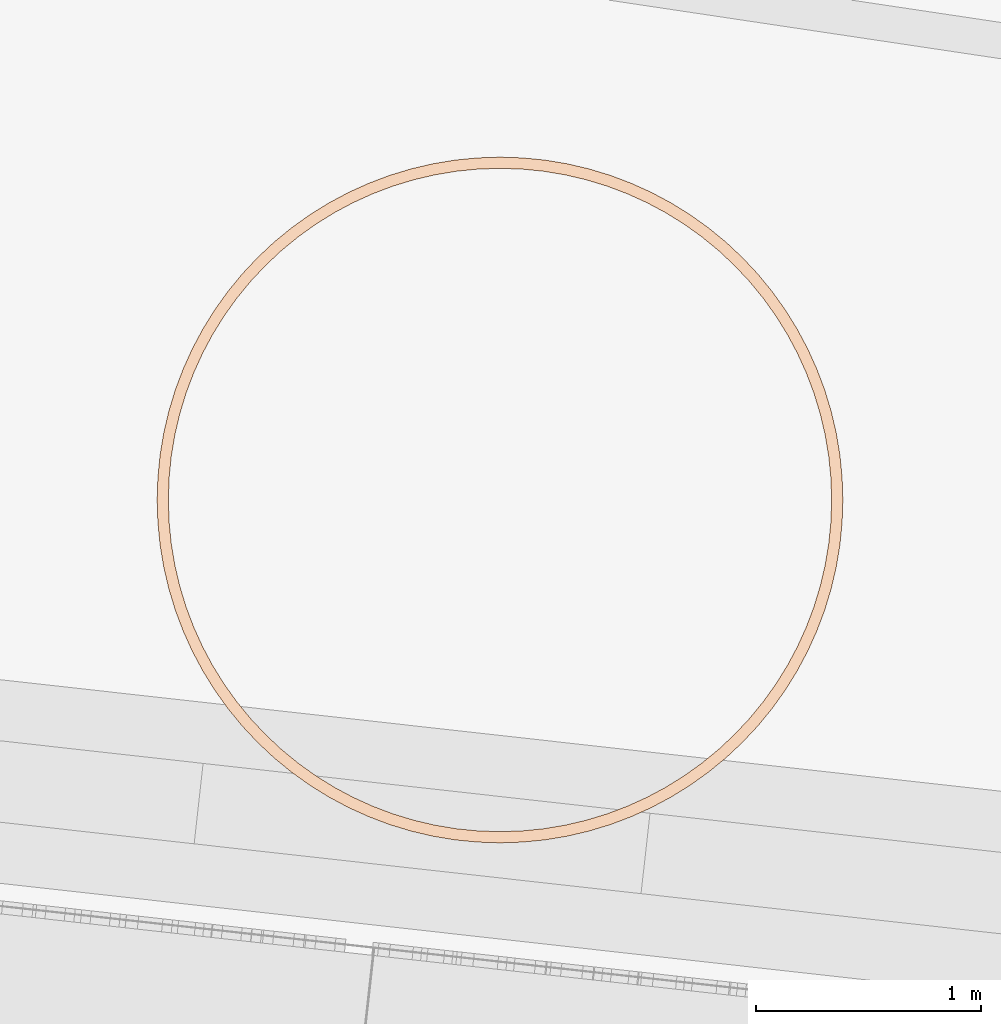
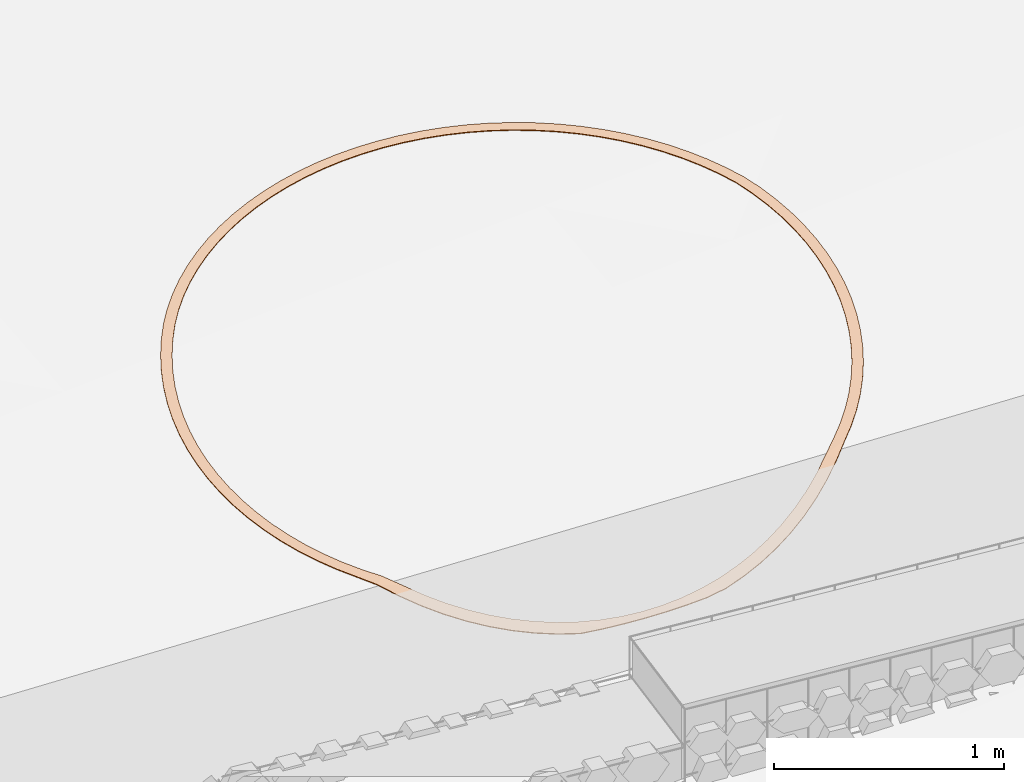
# Not in any storey, part 17 of 45: 1 geographic element.
"""IFC4 model written with IfcOpenShell, lengths in metres."""

from ifc_helpers import new_model, si_unit, direction, frame, origin_with_axes, place, context, subcontext, project, spatial, polygons, material, element, save


model = new_model("IFC4")

# Units and contexts
model_context = context("Model", 3, precision=1e-05, world=origin_with_axes(), true_north=direction((0.0, 1.0)))
body_context = subcontext(model_context, "Body", "Model", "MODEL_VIEW")
ifc_project = project(units=[si_unit("VOLUMEUNIT", "CUBIC_METRE"), si_unit("LENGTHUNIT", "METRE"), si_unit("AREAUNIT", "SQUARE_METRE")], contexts=[model_context])

# Site
site_placement = place(None, origin_with_axes())
site = spatial("IfcSite", under=ifc_project, at=site_placement, Name="Lares · Rua das Mercês · artigo 4771")

# Geographic element
ifc_material = material(Name="Marcação de plantação · linha no terreno", Category="stone")
geographic_element_placement = place(site_placement, frame((0.0, 0.0, 0.0), z_axis=(0.0, 0.0, 1.0), x_axis=(1.0, -1.03767253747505e-17, 0.0)))
element("IfcGeographicElement", 1, at=geographic_element_placement, inside=site, material=ifc_material, Name="Marcação no solo · árvore indicativa 05", ObjectType="Marcação no solo · árvore indicativa 05", PredefinedType="USERDEFINED", context=body_context, shape_type="Tessellation", body=[
    polygons([(32.5492226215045, 2.24216069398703, 13.4631935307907), (32.5492226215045, 2.24216069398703, 13.4671935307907), (32.5992226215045, 2.24216069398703, 13.4664761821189), (32.5992226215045, 2.24216069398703, 13.4704761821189), (32.5460645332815, 2.3386303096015, 13.4761023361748), (32.5460645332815, 2.3386303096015, 13.4801023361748), (32.5959574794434, 2.341900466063, 13.4798225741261), (32.5959574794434, 2.341900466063, 13.4838225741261), (32.5366037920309, 2.43468682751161, 13.4885411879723), (32.5366037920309, 2.43468682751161, 13.4925411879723), (32.5861760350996, 2.44121313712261, 13.4926830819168), (32.5861760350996, 2.44121313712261, 13.4966830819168), (32.5208809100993, 2.52991891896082, 13.5004568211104), (32.5208809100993, 2.52991891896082, 13.5044568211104), (32.5699201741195, 2.53967343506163, 13.5050026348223), (32.5699201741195, 2.53967343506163, 13.5090026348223), (32.4989632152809, 2.62391878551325, 13.5117982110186), (32.4989632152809, 2.62391878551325, 13.5157982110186), (32.5472595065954, 2.63685973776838, 13.5167284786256), (32.5472595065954, 2.63685973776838, 13.5207284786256), (32.4709445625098, 2.7162839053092, 13.5223141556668), (32.4709445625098, 2.7162839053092, 13.5263141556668), (32.5182910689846, 2.73235587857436, 13.5260280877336), (32.5182910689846, 2.73235587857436, 13.5300280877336), (32.4369449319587, 2.80661875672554, 13.5269275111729), (32.4369449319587, 2.80661875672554, 13.5309275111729), (32.4831389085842, 2.8257529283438, 13.5307978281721), (32.4831389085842, 2.8257529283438, 13.5347978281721), (32.3971099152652, 2.89453651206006, 13.5310519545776), (32.3971099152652, 2.89453651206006, 13.5350519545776), (32.4419535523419, 2.91665094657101, 13.5350620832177), (32.4419535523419, 2.91665094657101, 13.5390620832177), (32.3516100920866, 2.97966069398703, 13.5346698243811), (32.3516100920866, 2.97966069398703, 13.5386698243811), (32.3949113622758, 3.00466069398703, 13.5388025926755), (32.3949113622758, 3.00466069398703, 13.5428025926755), (32.3006402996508, 3.06162678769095, 13.5377656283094), (32.3006402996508, 3.06162678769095, 13.5417656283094), (32.3422137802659, 3.08940529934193, 13.5420033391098), (32.3422137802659, 3.08940529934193, 13.5460033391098), (32.2444187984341, 3.1400838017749, 13.5403261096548), (32.2444187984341, 3.1400838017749, 13.5443261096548), (32.2840864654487, 3.17052187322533, 13.5446506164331), (32.2840864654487, 3.17052187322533, 13.5486506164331), (32.183186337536, 3.21469577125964, 13.5423403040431), (32.183186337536, 3.21469577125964, 13.5463403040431), (32.22077832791, 3.24766306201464, 13.5467330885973), (32.22077832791, 3.24766306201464, 13.5507330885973), (32.1172051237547, 3.28514319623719, 13.5437995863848), (32.1172051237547, 3.28514319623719, 13.5477995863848), (32.152560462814, 3.32049853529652, 13.548241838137), (32.152560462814, 3.32049853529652, 13.552241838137), (32.0467576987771, 3.35112441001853, 13.5446977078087), (32.0467576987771, 3.35112441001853, 13.5486977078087), (32.0797249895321, 3.38871640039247, 13.549170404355), (32.0797249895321, 3.38871640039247, 13.553170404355), (31.9721457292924, 3.41235687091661, 13.5450308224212), (31.9721457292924, 3.41235687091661, 13.5490308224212), (32.0025838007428, 3.45202453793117, 13.5495148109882), (32.0025838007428, 3.45202453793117, 13.5535148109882), (31.8936887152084, 3.46857837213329, 13.5447975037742), (31.8936887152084, 3.46857837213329, 13.5487975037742), (31.9214672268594, 3.51015185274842, 13.5492735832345), (31.9214672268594, 3.51015185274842, 13.5532735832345), (31.8117226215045, 3.51954816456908, 13.543998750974), (31.8117226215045, 3.51954816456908, 13.547998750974), (31.8367226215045, 3.5628494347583, 13.5484477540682), (31.8367226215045, 3.5628494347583, 13.5524477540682), (31.7265984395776, 3.56504798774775, 13.5426379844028), (31.7265984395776, 3.56504798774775, 13.5466379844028), (31.7487128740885, 3.60989162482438, 13.5470408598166), (31.7487128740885, 3.60989162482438, 13.5510408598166), (31.638680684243, 3.60488300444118, 13.5407210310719), (31.638680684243, 3.60488300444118, 13.5447210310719), (31.6578148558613, 3.65107698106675, 13.5450589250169), (31.6578148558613, 3.65107698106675, 13.5490589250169), (31.5483458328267, 3.63888263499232, 13.5382560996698), (31.5483458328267, 3.63888263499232, 13.5422560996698), (31.5644178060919, 3.68622914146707, 13.5425104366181), (31.5644178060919, 3.68622914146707, 13.5465104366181), (31.4559807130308, 3.66690128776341, 13.5352537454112), (31.4559807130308, 3.66690128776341, 13.5392537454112), (31.4689216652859, 3.71519757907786, 13.5394063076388), (31.4689216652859, 3.71519757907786, 13.5434063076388), (31.3619808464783, 3.6888189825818, 13.5317268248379), (31.3619808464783, 3.6888189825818, 13.5357268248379), (31.3717353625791, 3.73785824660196, 13.5357598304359), (31.3717353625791, 3.73785824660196, 13.5397598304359), (31.2667487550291, 3.7045418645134, 13.5276904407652), (31.2667487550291, 3.7045418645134, 13.5316904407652), (31.2732750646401, 3.75411410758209, 13.5315866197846), (31.2732750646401, 3.75411410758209, 13.5355866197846), (31.170692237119, 3.71400260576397, 13.5231618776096), (31.170692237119, 3.71400260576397, 13.5271618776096), (31.1739623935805, 3.7638955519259, 13.5269045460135), (31.1739623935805, 3.7638955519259, 13.5309045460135), (31.0742226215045, 3.71716069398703, 13.5181605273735), (31.0742226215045, 3.71716069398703, 13.5221605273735), (31.0742226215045, 3.76716069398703, 13.5217336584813), (31.0742226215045, 3.76716069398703, 13.5257336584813), (30.9777530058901, 3.71400260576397, 13.5127078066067), (30.9777530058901, 3.71400260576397, 13.5167078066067), (30.9744828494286, 3.7638955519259, 13.5160960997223), (30.9744828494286, 3.7638955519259, 13.5200960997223), (30.88169648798, 3.7045418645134, 13.5068270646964), (30.88169648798, 3.7045418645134, 13.5108270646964), (30.875170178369, 3.75411410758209, 13.5100160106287), (30.875170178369, 3.75411410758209, 13.5140160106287), (30.7864643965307, 3.6888189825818, 13.5005434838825), (30.7864643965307, 3.6888189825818, 13.5045434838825), (30.7767098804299, 3.73785824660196, 13.5035194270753), (30.7767098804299, 3.73785824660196, 13.5075194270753), (30.6924645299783, 3.66690128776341, 13.4938839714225), (30.6924645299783, 3.66690128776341, 13.4978839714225), (30.6795235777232, 3.71519757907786, 13.4966341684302), (30.6795235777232, 3.71519757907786, 13.5006341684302), (30.6000994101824, 3.63888263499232, 13.4868770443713), (30.6000994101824, 3.63888263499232, 13.4908770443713), (30.5840274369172, 3.68622914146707, 13.4893897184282), (30.5840274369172, 3.68622914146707, 13.4933897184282), (30.509764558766, 3.60488300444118, 13.4795527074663), (30.509764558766, 3.60488300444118, 13.4835527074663), (30.4906303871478, 3.65107698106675, 13.4818170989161), (30.4906303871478, 3.65107698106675, 13.4858170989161), (30.4218468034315, 3.56504798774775, 13.4719423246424), (30.4218468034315, 3.56504798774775, 13.4759423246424), (30.3997323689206, 3.60989162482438, 13.4739487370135), (30.3997323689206, 3.60989162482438, 13.4779487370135), (30.3367226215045, 3.51954816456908, 13.4640784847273), (30.3367226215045, 3.51954816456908, 13.4680784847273), (30.3117226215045, 3.5628494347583, 13.4658183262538), (30.3117226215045, 3.5628494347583, 13.4698183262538), (30.2547565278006, 3.46857837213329, 13.4559948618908), (30.2547565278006, 3.46857837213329, 13.4599948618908), (30.2269780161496, 3.51015185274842, 13.4574606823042), (30.2269780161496, 3.51015185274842, 13.4614606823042), (30.1762995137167, 3.41235687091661, 13.4477260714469), (30.1762995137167, 3.41235687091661, 13.4517260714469), (30.1458614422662, 3.45202453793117, 13.4489115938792), (30.1458614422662, 3.45202453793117, 13.4529115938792), (30.1016875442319, 3.35112441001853, 13.4393075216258), (30.1016875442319, 3.35112441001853, 13.4433075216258), (30.0687202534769, 3.38871640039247, 13.4402076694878), (30.0687202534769, 3.38871640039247, 13.4442076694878), (30.0312401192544, 3.28514319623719, 13.4307752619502), (30.0312401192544, 3.28514319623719, 13.4347752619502), (29.995884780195, 3.32049853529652, 13.4313861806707), (29.995884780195, 3.32049853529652, 13.4353861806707), (29.965258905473, 3.21469577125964, 13.4221658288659), (29.965258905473, 3.21469577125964, 13.4261658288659), (29.9276669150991, 3.24766306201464, 13.4224849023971), (29.9276669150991, 3.24766306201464, 13.4264849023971), (29.904026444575, 3.1400838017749, 13.4116112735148), (29.904026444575, 3.1400838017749, 13.4156112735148), (29.8643587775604, 3.17052187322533, 13.4131453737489), (29.8643587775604, 3.17052187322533, 13.4171453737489), (29.8478049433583, 3.06162678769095, 13.3972530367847), (29.8478049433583, 3.06162678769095, 13.4012530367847), (29.8062314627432, 3.08940529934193, 13.3983004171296), (29.8062314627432, 3.08940529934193, 13.4023004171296), (29.7968351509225, 2.97966069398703, 13.3827624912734), (29.7968351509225, 2.97966069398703, 13.3867624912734), (29.7535338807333, 3.00466069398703, 13.3833186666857), (29.7535338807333, 3.00466069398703, 13.3873186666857), (29.7513353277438, 2.89453651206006, 13.3682016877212), (29.7513353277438, 2.89453651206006, 13.3722016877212), (29.7064916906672, 2.91665094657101, 13.3682642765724), (29.7064916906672, 2.91665094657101, 13.3722642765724), (29.7115003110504, 2.80661875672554, 13.3536329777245), (29.7115003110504, 2.80661875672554, 13.3576329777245), (29.6653063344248, 2.8257529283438, 13.3532017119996), (29.6653063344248, 2.8257529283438, 13.3572017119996), (29.6775006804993, 2.7162839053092, 13.3391187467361), (29.6775006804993, 2.7162839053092, 13.3431187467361), (29.6301541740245, 2.73235587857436, 13.338195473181), (29.6301541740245, 2.73235587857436, 13.342195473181), (29.6494820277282, 2.62391878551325, 13.3247211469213), (29.6494820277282, 2.62391878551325, 13.3287211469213), (29.6011857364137, 2.63685973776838, 13.3233098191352), (29.6011857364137, 2.63685973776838, 13.3273098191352), (29.6275643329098, 2.52991891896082, 13.3105018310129), (29.6275643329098, 2.52991891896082, 13.3145018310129), (29.5785250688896, 2.53967343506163, 13.3086084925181), (29.5785250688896, 2.53967343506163, 13.3126084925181), (29.6118414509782, 2.43468682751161, 13.2965216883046), (29.6118414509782, 2.43468682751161, 13.3005216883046), (29.5622692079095, 2.44121313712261, 13.2941544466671), (29.5622692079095, 2.44121313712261, 13.2981544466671), (29.6023807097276, 2.3386303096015, 13.2828405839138), (29.6023807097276, 2.3386303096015, 13.2868405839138), (29.5524877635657, 2.341900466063, 13.2800095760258), (29.5524877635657, 2.341900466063, 13.2840095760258), (29.5992226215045, 2.24216069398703, 13.2695171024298), (29.5992226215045, 2.24216069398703, 13.2735171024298), (29.5492226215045, 2.24216069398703, 13.2662344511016), (29.5492226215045, 2.24216069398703, 13.2702344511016), (29.6023807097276, 2.14569107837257, 13.2566082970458), (29.6023807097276, 2.14569107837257, 13.2606082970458), (29.5524877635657, 2.14242092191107, 13.2528880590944), (29.5524877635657, 2.14242092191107, 13.2568880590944), (29.6118414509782, 2.04963456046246, 13.2441694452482), (29.6118414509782, 2.04963456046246, 13.2481694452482), (29.5622692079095, 2.04310825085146, 13.2400275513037), (29.5622692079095, 2.04310825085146, 13.2440275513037), (29.6275643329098, 1.95440246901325, 13.2322538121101), (29.6275643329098, 1.95440246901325, 13.2362538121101), (29.5785250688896, 1.94464795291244, 13.2277079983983), (29.5785250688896, 1.94464795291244, 13.2317079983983), (29.6494820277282, 1.86040260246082, 13.220912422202), (29.6494820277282, 1.86040260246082, 13.224912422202), (29.6011857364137, 1.84746165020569, 13.2159821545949), (29.6011857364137, 1.84746165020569, 13.2199821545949), (29.6775006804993, 1.76803748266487, 13.2101938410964), (29.6775006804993, 1.76803748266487, 13.2141938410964), (29.6301541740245, 1.75196550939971, 13.204900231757), (29.6301541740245, 1.75196550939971, 13.208900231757), (29.7115003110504, 1.67770263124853, 13.2001439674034), (29.7115003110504, 1.67770263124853, 13.2041439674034), (29.6653063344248, 1.65856845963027, 13.1945096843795), (29.6653063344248, 1.65856845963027, 13.1985096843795), (29.7513353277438, 1.58978487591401, 13.1908058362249), (29.7513353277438, 1.58978487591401, 13.1948058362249), (29.7064916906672, 1.56767044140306, 13.1848550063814), (29.7064916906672, 1.56767044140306, 13.1888550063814), (29.7968351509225, 1.50466069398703, 13.1822194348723), (29.7968351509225, 1.50466069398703, 13.1862194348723), (29.7535338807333, 1.47966069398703, 13.1759775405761), (29.7535338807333, 1.47966069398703, 13.1799775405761), (29.8478049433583, 1.42269460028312, 13.1744215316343), (29.8478049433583, 1.42269460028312, 13.1784215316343), (29.8062314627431, 1.39491608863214, 13.1679153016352), (29.8062314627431, 1.39491608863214, 13.1719153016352), (29.904026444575, 1.34423758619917, 13.1674455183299), (29.904026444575, 1.34423758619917, 13.1714455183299), (29.8643587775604, 1.31379951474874, 13.1543035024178), (29.8643587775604, 1.31379951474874, 13.1583035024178), (29.965258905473, 1.26962561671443, 13.1417752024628), (29.965258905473, 1.26962561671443, 13.1457752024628), (29.9276669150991, 1.23665832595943, 13.1199899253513), (29.9276669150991, 1.23665832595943, 13.1239899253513), (30.0312401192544, 1.19917819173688, 13.1112535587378), (30.0312401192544, 1.19917819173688, 13.1152535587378), (29.995884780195, 1.16382285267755, 13.0884336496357), (29.995884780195, 1.16382285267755, 13.0924336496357), (30.1016875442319, 1.13319697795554, 13.0836146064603), (30.1016875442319, 1.13319697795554, 13.0876146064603), (30.0687202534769, 1.09560498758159, 13.0598577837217), (30.0687202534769, 1.09560498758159, 13.0638577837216), (30.1762995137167, 1.07196451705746, 13.0589766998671), (30.1762995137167, 1.07196451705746, 13.0629766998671), (30.1458614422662, 1.0322968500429, 13.0343846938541), (30.1458614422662, 1.0322968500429, 13.0383846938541), (30.2547565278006, 1.01574301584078, 13.0374453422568), (30.2547565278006, 1.01574301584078, 13.0414453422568), (30.2269780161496, 0.974169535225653, 13.0121234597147), (30.2269780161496, 0.974169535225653, 13.0161234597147), (30.3367226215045, 0.964773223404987, 13.0191127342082), (30.3367226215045, 0.964773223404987, 13.0231127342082), (30.3117226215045, 0.921471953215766, 12.9931694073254), (30.3117226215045, 0.921471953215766, 12.9971694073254), (30.4218468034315, 0.919273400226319, 13.0040573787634), (30.4218468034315, 0.919273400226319, 13.0080573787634), (30.3997323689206, 0.874429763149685, 12.9776037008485), (30.3997323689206, 0.874429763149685, 12.9816037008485), (30.509764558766, 0.879438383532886, 12.9923437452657), (30.509764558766, 0.879438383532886, 12.9963437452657), (30.4906303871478, 0.833244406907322, 12.9654929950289), (30.4906303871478, 0.833244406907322, 12.9694929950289), (30.6000994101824, 0.845438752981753, 12.9840219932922), (30.6000994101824, 0.845438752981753, 12.9880219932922), (30.5840274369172, 0.798092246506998, 12.9568891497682), (30.5840274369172, 0.798092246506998, 12.9608891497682), (30.6924645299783, 0.817420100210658, 12.9791277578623), (30.6924645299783, 0.817420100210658, 12.9831277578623), (30.6795235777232, 0.769123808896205, 12.9654284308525), (30.6795235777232, 0.769123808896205, 12.9694284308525), (30.7864643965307, 0.795502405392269, 12.9776819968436), (30.7864643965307, 0.795502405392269, 12.9816819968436), (30.7767098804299, 0.746463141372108, 12.9733359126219), (30.7767098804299, 0.746463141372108, 12.9773359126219), (30.88169648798, 0.779779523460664, 12.9796909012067), (30.88169648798, 0.779779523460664, 12.9836909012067), (30.875170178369, 0.730207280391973, 12.9796099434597), (30.875170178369, 0.730207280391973, 12.9836099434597), (30.9777530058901, 0.770318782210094, 12.9851458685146), (30.9777530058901, 0.770318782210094, 12.9891458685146), (30.9744828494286, 0.720425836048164, 12.9842236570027), (30.9744828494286, 0.720425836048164, 12.9882236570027), (31.0742226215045, 0.767160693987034, 12.9940235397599), (31.0742226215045, 0.767160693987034, 12.9980235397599), (31.0742226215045, 0.717160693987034, 12.987157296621), (31.0742226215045, 0.717160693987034, 12.991157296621), (31.170692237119, 0.770318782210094, 13.0062858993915), (31.170692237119, 0.770318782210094, 13.0102858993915), (31.1739623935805, 0.720425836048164, 12.9883983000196), (31.1739623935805, 0.720425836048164, 12.9923983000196), (31.2667487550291, 0.779779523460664, 13.0218804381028), (31.2667487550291, 0.779779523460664, 13.0258804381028), (31.2732750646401, 0.730207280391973, 12.996030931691), (31.2732750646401, 0.730207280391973, 13.000030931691), (31.3619808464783, 0.795502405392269, 13.0407403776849), (31.3619808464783, 0.795502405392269, 13.0447403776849), (31.3717353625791, 0.746463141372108, 13.0155301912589), (31.3717353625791, 0.746463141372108, 13.0195301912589), (31.4559807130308, 0.817420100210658, 13.0627849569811), (31.4559807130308, 0.817420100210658, 13.0667849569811), (31.4689216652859, 0.769123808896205, 13.0383220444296), (31.4689216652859, 0.769123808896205, 13.0423220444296), (31.5483458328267, 0.845438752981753, 13.0879197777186), (31.5483458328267, 0.845438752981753, 13.0919197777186), (31.5644178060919, 0.798092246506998, 13.0643088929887), (31.5644178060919, 0.798092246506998, 13.0683088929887), (31.638680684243, 0.879438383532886, 13.1160372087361), (31.638680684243, 0.879438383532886, 13.1200372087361), (31.6578148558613, 0.833244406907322, 13.093379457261), (31.6578148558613, 0.833244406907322, 13.097379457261), (31.7265984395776, 0.919273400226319, 13.1470168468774), (31.7265984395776, 0.919273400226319, 13.1510168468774), (31.7487128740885, 0.874429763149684, 13.1254092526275), (31.7487128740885, 0.874429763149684, 13.1294092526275), (31.8117226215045, 0.964773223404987, 13.1807260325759), (31.8117226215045, 0.964773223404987, 13.1847260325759), (31.8367226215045, 0.921471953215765, 13.1602611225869), (31.8367226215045, 0.921471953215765, 13.1642611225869), (31.8936887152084, 1.01574301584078, 13.2170204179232), (31.8936887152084, 1.01574301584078, 13.2210204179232), (31.9214672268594, 0.974169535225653, 13.1977858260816), (31.9214672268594, 0.974169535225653, 13.2017858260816), (31.9721457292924, 1.07196451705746, 13.2557445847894), (31.9721457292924, 1.07196451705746, 13.2597445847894), (32.0025838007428, 1.0322968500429, 13.2378226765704), (32.0025838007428, 1.0322968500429, 13.2418226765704), (32.0467576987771, 1.13319697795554, 13.2782035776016), (32.0467576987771, 1.13319697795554, 13.2822035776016), (32.0797249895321, 1.09560498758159, 13.275154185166), (32.0797249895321, 1.09560498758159, 13.279154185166), (32.1172051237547, 1.19917819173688, 13.2919279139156), (32.1172051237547, 1.19917819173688, 13.2959279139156), (32.152560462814, 1.16382285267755, 13.2893437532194), (32.152560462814, 1.16382285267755, 13.2933437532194), (32.183186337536, 1.26962561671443, 13.3059786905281), (32.183186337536, 1.26962561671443, 13.3099786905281), (32.22077832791, 1.23665832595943, 13.3038708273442), (32.22077832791, 1.23665832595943, 13.3078708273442), (32.2444187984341, 1.34423758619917, 13.3202957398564), (32.2444187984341, 1.34423758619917, 13.3242957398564), (32.2840864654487, 1.31379951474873, 13.3186732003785), (32.2840864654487, 1.31379951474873, 13.3226732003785), (32.3006402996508, 1.42269460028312, 13.3348177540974), (32.3006402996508, 1.42269460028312, 13.3388177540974), (32.3422137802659, 1.39491608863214, 13.3336874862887), (32.3422137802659, 1.39491608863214, 13.3376874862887), (32.3516100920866, 1.50466069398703, 13.3494825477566), (32.3516100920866, 1.50466069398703, 13.3534825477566), (32.3949113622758, 1.47966069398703, 13.3488493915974), (32.3949113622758, 1.47966069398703, 13.3528493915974), (32.3971099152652, 1.58978487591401, 13.3642273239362), (32.3971099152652, 1.58978487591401, 13.3682273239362), (32.4419535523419, 1.56767044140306, 13.3640939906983), (32.4419535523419, 1.56767044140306, 13.3680939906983), (32.4369449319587, 1.67770263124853, 13.3789889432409), (32.4369449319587, 1.67770263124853, 13.3829889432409), (32.4831389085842, 1.65856845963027, 13.3793560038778), (32.4831389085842, 1.65856845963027, 13.3833560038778), (32.4709445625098, 1.76803748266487, 13.3935918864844), (32.4709445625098, 1.76803748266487, 13.3975918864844), (32.5182910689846, 1.75196550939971, 13.3945151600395), (32.5182910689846, 1.75196550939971, 13.3985151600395), (32.4989632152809, 1.86040260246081, 13.4079894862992), (32.4989632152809, 1.86040260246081, 13.4119894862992), (32.5472595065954, 1.84746165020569, 13.4094008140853), (32.5472595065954, 1.84746165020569, 13.4134008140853), (32.5208809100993, 1.95440246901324, 13.4222088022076), (32.5208809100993, 1.95440246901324, 13.4262088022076), (32.5699201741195, 1.94464795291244, 13.4241021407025), (32.5699201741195, 1.94464795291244, 13.4281021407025), (32.5366037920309, 2.04963456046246, 13.4361889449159), (32.5366037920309, 2.04963456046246, 13.4401889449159), (32.5861760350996, 2.04310825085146, 13.4385561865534), (32.5861760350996, 2.04310825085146, 13.4425561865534), (32.5460645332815, 2.14569107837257, 13.4498700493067), (32.5460645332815, 2.14569107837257, 13.4538700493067), (32.5959574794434, 2.14242092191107, 13.4527010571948), (32.5959574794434, 2.14242092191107, 13.4567010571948)], [[[5, 7, 3, 1]], [[4, 8, 6, 2]], [[2, 6, 5, 1]], [[7, 8, 4, 3]], [[9, 11, 7, 5]], [[8, 12, 10, 6]], [[6, 10, 9, 5]], [[11, 12, 8, 7]], [[13, 15, 11, 9]], [[12, 16, 14, 10]], [[10, 14, 13, 9]], [[15, 16, 12, 11]], [[17, 19, 15, 13]], [[16, 20, 18, 14]], [[14, 18, 17, 13]], [[19, 20, 16, 15]], [[21, 23, 19, 17]], [[20, 24, 22, 18]], [[18, 22, 21, 17]], [[23, 24, 20, 19]], [[25, 27, 23, 21]], [[24, 28, 26, 22]], [[22, 26, 25, 21]], [[27, 28, 24, 23]], [[29, 31, 27, 25]], [[28, 32, 30, 26]], [[26, 30, 29, 25]], [[31, 32, 28, 27]], [[33, 35, 31, 29]], [[32, 36, 34, 30]], [[30, 34, 33, 29]], [[35, 36, 32, 31]], [[37, 39, 35, 33]], [[36, 40, 38, 34]], [[34, 38, 37, 33]], [[39, 40, 36, 35]], [[41, 43, 39, 37]], [[40, 44, 42, 38]], [[38, 42, 41, 37]], [[43, 44, 40, 39]], [[45, 47, 43, 41]], [[44, 48, 46, 42]], [[42, 46, 45, 41]], [[47, 48, 44, 43]], [[49, 51, 47, 45]], [[48, 52, 50, 46]], [[46, 50, 49, 45]], [[51, 52, 48, 47]], [[53, 55, 51, 49]], [[52, 56, 54, 50]], [[50, 54, 53, 49]], [[55, 56, 52, 51]], [[57, 59, 55, 53]], [[56, 60, 58, 54]], [[54, 58, 57, 53]], [[59, 60, 56, 55]], [[61, 63, 59, 57]], [[60, 64, 62, 58]], [[58, 62, 61, 57]], [[63, 64, 60, 59]], [[65, 67, 63, 61]], [[64, 68, 66, 62]], [[62, 66, 65, 61]], [[67, 68, 64, 63]], [[69, 71, 67, 65]], [[68, 72, 70, 66]], [[66, 70, 69, 65]], [[71, 72, 68, 67]], [[73, 75, 71, 69]], [[72, 76, 74, 70]], [[70, 74, 73, 69]], [[75, 76, 72, 71]], [[77, 79, 75, 73]], [[76, 80, 78, 74]], [[74, 78, 77, 73]], [[79, 80, 76, 75]], [[81, 83, 79, 77]], [[80, 84, 82, 78]], [[78, 82, 81, 77]], [[83, 84, 80, 79]], [[85, 87, 83, 81]], [[84, 88, 86, 82]], [[82, 86, 85, 81]], [[87, 88, 84, 83]], [[89, 91, 87, 85]], [[88, 92, 90, 86]], [[86, 90, 89, 85]], [[91, 92, 88, 87]], [[93, 95, 91, 89]], [[92, 96, 94, 90]], [[90, 94, 93, 89]], [[95, 96, 92, 91]], [[97, 99, 95, 93]], [[96, 100, 98, 94]], [[94, 98, 97, 93]], [[99, 100, 96, 95]], [[101, 103, 99, 97]], [[100, 104, 102, 98]], [[98, 102, 101, 97]], [[103, 104, 100, 99]], [[105, 107, 103, 101]], [[104, 108, 106, 102]], [[102, 106, 105, 101]], [[107, 108, 104, 103]], [[109, 111, 107, 105]], [[108, 112, 110, 106]], [[106, 110, 109, 105]], [[111, 112, 108, 107]], [[113, 115, 111, 109]], [[112, 116, 114, 110]], [[110, 114, 113, 109]], [[115, 116, 112, 111]], [[117, 119, 115, 113]], [[116, 120, 118, 114]], [[114, 118, 117, 113]], [[119, 120, 116, 115]], [[121, 123, 119, 117]], [[120, 124, 122, 118]], [[118, 122, 121, 117]], [[123, 124, 120, 119]], [[125, 127, 123, 121]], [[124, 128, 126, 122]], [[122, 126, 125, 121]], [[127, 128, 124, 123]], [[129, 131, 127, 125]], [[128, 132, 130, 126]], [[126, 130, 129, 125]], [[131, 132, 128, 127]], [[133, 135, 131, 129]], [[132, 136, 134, 130]], [[130, 134, 133, 129]], [[135, 136, 132, 131]], [[137, 139, 135, 133]], [[136, 140, 138, 134]], [[134, 138, 137, 133]], [[139, 140, 136, 135]], [[141, 143, 139, 137]], [[140, 144, 142, 138]], [[138, 142, 141, 137]], [[143, 144, 140, 139]], [[145, 147, 143, 141]], [[144, 148, 146, 142]], [[142, 146, 145, 141]], [[147, 148, 144, 143]], [[149, 151, 147, 145]], [[148, 152, 150, 146]], [[146, 150, 149, 145]], [[151, 152, 148, 147]], [[153, 155, 151, 149]], [[152, 156, 154, 150]], [[150, 154, 153, 149]], [[155, 156, 152, 151]], [[157, 159, 155, 153]], [[156, 160, 158, 154]], [[154, 158, 157, 153]], [[159, 160, 156, 155]], [[161, 163, 159, 157]], [[160, 164, 162, 158]], [[158, 162, 161, 157]], [[163, 164, 160, 159]], [[165, 167, 163, 161]], [[164, 168, 166, 162]], [[162, 166, 165, 161]], [[167, 168, 164, 163]], [[169, 171, 167, 165]], [[168, 172, 170, 166]], [[166, 170, 169, 165]], [[171, 172, 168, 167]], [[173, 175, 171, 169]], [[172, 176, 174, 170]], [[170, 174, 173, 169]], [[175, 176, 172, 171]], [[177, 179, 175, 173]], [[176, 180, 178, 174]], [[174, 178, 177, 173]], [[179, 180, 176, 175]], [[181, 183, 179, 177]], [[180, 184, 182, 178]], [[178, 182, 181, 177]], [[183, 184, 180, 179]], [[185, 187, 183, 181]], [[184, 188, 186, 182]], [[182, 186, 185, 181]], [[187, 188, 184, 183]], [[189, 191, 187, 185]], [[188, 192, 190, 186]], [[186, 190, 189, 185]], [[191, 192, 188, 187]], [[193, 195, 191, 189]], [[192, 196, 194, 190]], [[190, 194, 193, 189]], [[195, 196, 192, 191]], [[197, 199, 195, 193]], [[196, 200, 198, 194]], [[194, 198, 197, 193]], [[199, 200, 196, 195]], [[201, 203, 199, 197]], [[200, 204, 202, 198]], [[198, 202, 201, 197]], [[203, 204, 200, 199]], [[205, 207, 203, 201]], [[204, 208, 206, 202]], [[202, 206, 205, 201]], [[207, 208, 204, 203]], [[209, 211, 207, 205]], [[208, 212, 210, 206]], [[206, 210, 209, 205]], [[211, 212, 208, 207]], [[213, 215, 211, 209]], [[212, 216, 214, 210]], [[210, 214, 213, 209]], [[215, 216, 212, 211]], [[217, 219, 215, 213]], [[216, 220, 218, 214]], [[214, 218, 217, 213]], [[219, 220, 216, 215]], [[221, 223, 219, 217]], [[220, 224, 222, 218]], [[218, 222, 221, 217]], [[223, 224, 220, 219]], [[225, 227, 223, 221]], [[224, 228, 226, 222]], [[222, 226, 225, 221]], [[227, 228, 224, 223]], [[229, 231, 227, 225]], [[228, 232, 230, 226]], [[226, 230, 229, 225]], [[231, 232, 228, 227]], [[233, 235, 231, 229]], [[232, 236, 234, 230]], [[230, 234, 233, 229]], [[235, 236, 232, 231]], [[237, 239, 235, 233]], [[236, 240, 238, 234]], [[234, 238, 237, 233]], [[239, 240, 236, 235]], [[241, 243, 239, 237]], [[240, 244, 242, 238]], [[238, 242, 241, 237]], [[243, 244, 240, 239]], [[245, 247, 243, 241]], [[244, 248, 246, 242]], [[242, 246, 245, 241]], [[247, 248, 244, 243]], [[249, 251, 247, 245]], [[248, 252, 250, 246]], [[246, 250, 249, 245]], [[251, 252, 248, 247]], [[253, 255, 251, 249]], [[252, 256, 254, 250]], [[250, 254, 253, 249]], [[255, 256, 252, 251]], [[257, 259, 255, 253]], [[256, 260, 258, 254]], [[254, 258, 257, 253]], [[259, 260, 256, 255]], [[261, 263, 259, 257]], [[260, 264, 262, 258]], [[258, 262, 261, 257]], [[263, 264, 260, 259]], [[265, 267, 263, 261]], [[264, 268, 266, 262]], [[262, 266, 265, 261]], [[267, 268, 264, 263]], [[269, 271, 267, 265]], [[268, 272, 270, 266]], [[266, 270, 269, 265]], [[271, 272, 268, 267]], [[273, 275, 271, 269]], [[272, 276, 274, 270]], [[270, 274, 273, 269]], [[275, 276, 272, 271]], [[277, 279, 275, 273]], [[276, 280, 278, 274]], [[274, 278, 277, 273]], [[279, 280, 276, 275]], [[281, 283, 279, 277]], [[280, 284, 282, 278]], [[278, 282, 281, 277]], [[283, 284, 280, 279]], [[285, 287, 283, 281]], [[284, 288, 286, 282]], [[282, 286, 285, 281]], [[287, 288, 284, 283]], [[289, 291, 287, 285]], [[288, 292, 290, 286]], [[286, 290, 289, 285]], [[291, 292, 288, 287]], [[293, 295, 291, 289]], [[292, 296, 294, 290]], [[290, 294, 293, 289]], [[295, 296, 292, 291]], [[297, 299, 295, 293]], [[296, 300, 298, 294]], [[294, 298, 297, 293]], [[299, 300, 296, 295]], [[301, 303, 299, 297]], [[300, 304, 302, 298]], [[298, 302, 301, 297]], [[303, 304, 300, 299]], [[305, 307, 303, 301]], [[304, 308, 306, 302]], [[302, 306, 305, 301]], [[307, 308, 304, 303]], [[309, 311, 307, 305]], [[308, 312, 310, 306]], [[306, 310, 309, 305]], [[311, 312, 308, 307]], [[313, 315, 311, 309]], [[312, 316, 314, 310]], [[310, 314, 313, 309]], [[315, 316, 312, 311]], [[317, 319, 315, 313]], [[316, 320, 318, 314]], [[314, 318, 317, 313]], [[319, 320, 316, 315]], [[321, 323, 319, 317]], [[320, 324, 322, 318]], [[318, 322, 321, 317]], [[323, 324, 320, 319]], [[325, 327, 323, 321]], [[324, 328, 326, 322]], [[322, 326, 325, 321]], [[327, 328, 324, 323]], [[329, 331, 327, 325]], [[328, 332, 330, 326]], [[326, 330, 329, 325]], [[331, 332, 328, 327]], [[333, 335, 331, 329]], [[332, 336, 334, 330]], [[330, 334, 333, 329]], [[335, 336, 332, 331]], [[337, 339, 335, 333]], [[336, 340, 338, 334]], [[334, 338, 337, 333]], [[339, 340, 336, 335]], [[341, 343, 339, 337]], [[340, 344, 342, 338]], [[338, 342, 341, 337]], [[343, 344, 340, 339]], [[345, 347, 343, 341]], [[344, 348, 346, 342]], [[342, 346, 345, 341]], [[347, 348, 344, 343]], [[349, 351, 347, 345]], [[348, 352, 350, 346]], [[346, 350, 349, 345]], [[351, 352, 348, 347]], [[353, 355, 351, 349]], [[352, 356, 354, 350]], [[350, 354, 353, 349]], [[355, 356, 352, 351]], [[357, 359, 355, 353]], [[356, 360, 358, 354]], [[354, 358, 357, 353]], [[359, 360, 356, 355]], [[361, 363, 359, 357]], [[360, 364, 362, 358]], [[358, 362, 361, 357]], [[363, 364, 360, 359]], [[365, 367, 363, 361]], [[364, 368, 366, 362]], [[362, 366, 365, 361]], [[367, 368, 364, 363]], [[369, 371, 367, 365]], [[368, 372, 370, 366]], [[366, 370, 369, 365]], [[371, 372, 368, 367]], [[373, 375, 371, 369]], [[372, 376, 374, 370]], [[370, 374, 373, 369]], [[375, 376, 372, 371]], [[377, 379, 375, 373]], [[376, 380, 378, 374]], [[374, 378, 377, 373]], [[379, 380, 376, 375]], [[381, 383, 379, 377]], [[380, 384, 382, 378]], [[378, 382, 381, 377]], [[383, 384, 380, 379]], [[1, 3, 383, 381]], [[384, 4, 2, 382]], [[382, 2, 1, 381]], [[3, 4, 384, 383]]]),
])

save(model, "model.ifc")
